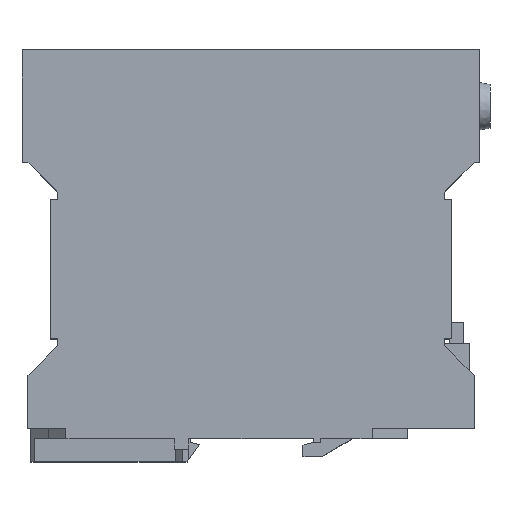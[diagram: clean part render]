
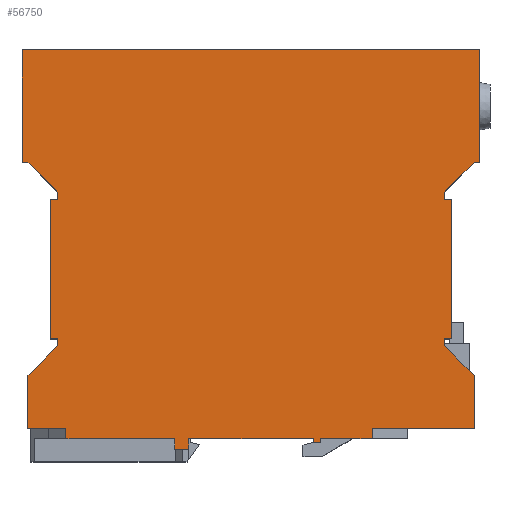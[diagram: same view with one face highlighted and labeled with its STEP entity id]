
A CAD part, top view. The second image highlights one B-rep face of the part: STEP entity #56750.
In plain terms, the highlighted planar face has unit normal (0, 0, 1) as drawn and (0, -1, 0) by its records, which use the part's own axes.
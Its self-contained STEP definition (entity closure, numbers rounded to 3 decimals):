
#3980=CARTESIAN_POINT('',(14.1,-26.,-110.));
#3990=VERTEX_POINT('',#3980);
#4020=CARTESIAN_POINT('',(-95.9,-26.,0.));
#4030=DIRECTION('',(0.707,0.,-0.707));
#4040=VECTOR('',#4030,1.);
#4050=LINE('',#4020,#4040);
#4060=CARTESIAN_POINT('',(22.5,-26.,-118.4));
#4070=VERTEX_POINT('',#4060);
#4080=EDGE_CURVE('',#3990,#4070,#4050,.T.);
#5450=CARTESIAN_POINT('',(22.5,-26.,10.1));
#5460=VERTEX_POINT('',#5450);
#5490=CARTESIAN_POINT('',(22.5,-26.,0.));
#5500=DIRECTION('',(0.,0.,1.));
#5510=VECTOR('',#5500,1.);
#5520=LINE('',#5490,#5510);
#5530=CARTESIAN_POINT('',(22.5,-26.,8.4));
#5540=VERTEX_POINT('',#5530);
#5550=EDGE_CURVE('',#5540,#5460,#5520,.T.);
#6370=CARTESIAN_POINT('',(12.1,-26.,0.));
#6380=VERTEX_POINT('',#6370);
#6410=CARTESIAN_POINT('',(12.1,-26.,0.));
#6420=DIRECTION('',(-0.,0.,1.));
#6430=VECTOR('',#6420,1.);
#6440=LINE('',#6410,#6430);
#6450=CARTESIAN_POINT('',(12.1,-26.,2.));
#6460=VERTEX_POINT('',#6450);
#6470=EDGE_CURVE('',#6380,#6460,#6440,.T.);
#7040=CARTESIAN_POINT('',(0.,-26.,-37.25));
#7050=DIRECTION('',(1.,0.,0.));
#7060=VECTOR('',#7050,1.);
#7070=LINE('',#7040,#7060);
#7080=CARTESIAN_POINT('',(-59.,-26.,-37.25));
#7090=VERTEX_POINT('',#7080);
#7100=CARTESIAN_POINT('',(-56.,-26.,-37.25));
#7110=VERTEX_POINT('',#7100);
#7120=EDGE_CURVE('',#7090,#7110,#7070,.T.);
#7510=CARTESIAN_POINT('',(12.1,-26.,0.));
#7520=DIRECTION('',(-0.,0.,1.));
#7530=VECTOR('',#7520,1.);
#7540=LINE('',#7510,#7530);
#7550=CARTESIAN_POINT('',(12.1,-26.,-112.));
#7560=VERTEX_POINT('',#7550);
#7570=CARTESIAN_POINT('',(12.1,-26.,-110.));
#7580=VERTEX_POINT('',#7570);
#7590=EDGE_CURVE('',#7560,#7580,#7540,.T.);
#8440=CARTESIAN_POINT('',(14.1,-26.,0.));
#8450=VERTEX_POINT('',#8440);
#8480=CARTESIAN_POINT('',(0.,-26.,0.));
#8490=DIRECTION('',(-1.,0.,0.));
#8500=VECTOR('',#8490,1.);
#8510=LINE('',#8480,#8500);
#8520=EDGE_CURVE('',#8450,#6380,#8510,.T.);
#8600=CARTESIAN_POINT('',(-27.6,-26.,0.));
#8610=VERTEX_POINT('',#8600);
#8640=CARTESIAN_POINT('',(-29.6,-26.,0.));
#8650=VERTEX_POINT('',#8640);
#8660=EDGE_CURVE('',#8610,#8650,#8510,.T.);
#11380=CARTESIAN_POINT('',(-53.,-26.,0.));
#11390=DIRECTION('',(-0.,0.,-1.));
#11400=VECTOR('',#11390,1.);
#11410=LINE('',#11380,#11400);
#11420=CARTESIAN_POINT('',(-53.,-26.,8.4));
#11430=VERTEX_POINT('',#11420);
#11440=CARTESIAN_POINT('',(-53.,-26.,-2.4));
#11450=VERTEX_POINT('',#11440);
#11460=EDGE_CURVE('',#11430,#11450,#11410,.T.);
#14010=CARTESIAN_POINT('',(-29.6,-26.,0.));
#14020=DIRECTION('',(-0.707,0.,0.707));
#14030=VECTOR('',#14020,1.);
#14040=LINE('',#14010,#14030);
#14050=CARTESIAN_POINT('',(-38.,-26.,8.4));
#14060=VERTEX_POINT('',#14050);
#14070=EDGE_CURVE('',#8650,#14060,#14040,.T.);
#15050=CARTESIAN_POINT('',(-27.6,-26.,0.));
#15060=DIRECTION('',(-0.,0.,-1.));
#15070=VECTOR('',#15060,1.);
#15080=LINE('',#15050,#15070);
#15090=CARTESIAN_POINT('',(-27.6,-26.,2.));
#15100=VERTEX_POINT('',#15090);
#15110=EDGE_CURVE('',#15100,#8610,#15080,.T.);
#20490=CARTESIAN_POINT('',(-57.2,-26.,0.));
#20500=DIRECTION('',(-0.,0.,-1.));
#20510=VECTOR('',#20500,1.);
#20520=LINE('',#20490,#20510);
#20530=CARTESIAN_POINT('',(-57.2,-26.,-72.75));
#20540=VERTEX_POINT('',#20530);
#20550=CARTESIAN_POINT('',(-57.2,-26.,-74.75));
#20560=VERTEX_POINT('',#20550);
#20570=EDGE_CURVE('',#20540,#20560,#20520,.T.);
#23100=CARTESIAN_POINT('',(-27.6,-26.,-112.));
#23110=VERTEX_POINT('',#23100);
#23140=CARTESIAN_POINT('',(0.,-26.,-112.));
#23150=DIRECTION('',(1.,0.,0.));
#23160=VECTOR('',#23150,1.);
#23170=LINE('',#23140,#23160);
#23180=EDGE_CURVE('',#23110,#7560,#23170,.T.);
#23500=CARTESIAN_POINT('',(0.,-26.,-2.4));
#23510=DIRECTION('',(-1.,0.,0.));
#23520=VECTOR('',#23510,1.);
#23530=LINE('',#23500,#23520);
#23540=CARTESIAN_POINT('',(-56.,-26.,-2.4));
#23550=VERTEX_POINT('',#23540);
#23560=EDGE_CURVE('',#11450,#23550,#23530,.T.);
#26050=CARTESIAN_POINT('',(14.1,-26.,0.));
#26060=DIRECTION('',(-0.707,0.,-0.707));
#26070=VECTOR('',#26060,1.);
#26080=LINE('',#26050,#26070);
#26090=EDGE_CURVE('',#5540,#8450,#26080,.T.);
#34290=CARTESIAN_POINT('',(0.,-26.,-33.25));
#34300=DIRECTION('',(-1.,0.,0.));
#34310=VECTOR('',#34300,1.);
#34320=LINE('',#34290,#34310);
#34330=CARTESIAN_POINT('',(-56.,-26.,-33.25));
#34340=VERTEX_POINT('',#34330);
#34350=CARTESIAN_POINT('',(-59.,-26.,-33.25));
#34360=VERTEX_POINT('',#34350);
#34370=EDGE_CURVE('',#34340,#34360,#34320,.T.);
#37040=CARTESIAN_POINT('',(-29.6,-26.,-110.));
#37050=VERTEX_POINT('',#37040);
#37080=CARTESIAN_POINT('',(0.,-26.,-110.));
#37090=DIRECTION('',(1.,0.,0.));
#37100=VECTOR('',#37090,1.);
#37110=LINE('',#37080,#37100);
#37120=CARTESIAN_POINT('',(-27.6,-26.,-110.));
#37130=VERTEX_POINT('',#37120);
#37140=EDGE_CURVE('',#37050,#37130,#37110,.T.);
#37240=EDGE_CURVE('',#7580,#3990,#37110,.T.);
#38130=CARTESIAN_POINT('',(-27.6,-26.,0.));
#38140=DIRECTION('',(-0.,0.,-1.));
#38150=VECTOR('',#38140,1.);
#38160=LINE('',#38130,#38150);
#38170=EDGE_CURVE('',#37130,#23110,#38160,.T.);
#39000=CARTESIAN_POINT('',(54.5,-26.,-119.9));
#39010=VERTEX_POINT('',#39000);
#39040=CARTESIAN_POINT('',(54.5,-26.,0.));
#39050=DIRECTION('',(-0.,0.,1.));
#39060=VECTOR('',#39050,1.);
#39070=LINE('',#39040,#39060);
#39080=CARTESIAN_POINT('',(54.5,-26.,10.1));
#39090=VERTEX_POINT('',#39080);
#39100=EDGE_CURVE('',#39010,#39090,#39070,.T.);
#39380=CARTESIAN_POINT('',(0.,-26.,-118.4));
#39390=DIRECTION('',(1.,0.,0.));
#39400=VECTOR('',#39390,1.);
#39410=LINE('',#39380,#39400);
#39420=CARTESIAN_POINT('',(-53.,-26.,-118.4));
#39430=VERTEX_POINT('',#39420);
#39440=CARTESIAN_POINT('',(-38.,-26.,-118.4));
#39450=VERTEX_POINT('',#39440);
#39460=EDGE_CURVE('',#39430,#39450,#39410,.T.);
#41920=CARTESIAN_POINT('',(0.,-26.,-74.75));
#41930=DIRECTION('',(1.,0.,0.));
#41940=VECTOR('',#41930,1.);
#41950=LINE('',#41920,#41940);
#41960=CARTESIAN_POINT('',(-56.,-26.,-74.75));
#41970=VERTEX_POINT('',#41960);
#41980=EDGE_CURVE('',#20560,#41970,#41950,.T.);
#42340=CARTESIAN_POINT('',(22.5,-26.,-119.9));
#42350=VERTEX_POINT('',#42340);
#42380=CARTESIAN_POINT('',(0.,-26.,-119.9));
#42390=DIRECTION('',(-1.,0.,-0.));
#42400=VECTOR('',#42390,1.);
#42410=LINE('',#42380,#42400);
#42420=EDGE_CURVE('',#39010,#42350,#42410,.T.);
#45420=CARTESIAN_POINT('',(-56.,-26.,-72.75));
#45430=VERTEX_POINT('',#45420);
#45460=CARTESIAN_POINT('',(0.,-26.,-72.75));
#45470=DIRECTION('',(-1.,0.,0.));
#45480=VECTOR('',#45470,1.);
#45490=LINE('',#45460,#45480);
#45500=EDGE_CURVE('',#45430,#20540,#45490,.T.);
#46510=CARTESIAN_POINT('',(22.5,-26.,0.));
#46520=DIRECTION('',(0.,0.,1.));
#46530=VECTOR('',#46520,1.);
#46540=LINE('',#46510,#46530);
#46550=EDGE_CURVE('',#42350,#4070,#46540,.T.);
#48460=CARTESIAN_POINT('',(80.4,-26.,0.));
#48470=DIRECTION('',(0.707,0.,0.707));
#48480=VECTOR('',#48470,1.);
#48490=LINE('',#48460,#48480);
#48500=EDGE_CURVE('',#39450,#37050,#48490,.T.);
#49830=CARTESIAN_POINT('',(-53.,-26.,-89.4));
#49840=VERTEX_POINT('',#49830);
#49870=CARTESIAN_POINT('',(-53.,-26.,0.));
#49880=DIRECTION('',(-0.,0.,-1.));
#49890=VECTOR('',#49880,1.);
#49900=LINE('',#49870,#49890);
#49910=EDGE_CURVE('',#49840,#39430,#49900,.T.);
#53750=CARTESIAN_POINT('',(-59.,-26.,0.));
#53760=DIRECTION('',(-0.,0.,-1.));
#53770=VECTOR('',#53760,1.);
#53780=LINE('',#53750,#53770);
#53790=EDGE_CURVE('',#34360,#7090,#53780,.T.);
#54670=CARTESIAN_POINT('',(0.,-26.,8.4));
#54680=DIRECTION('',(-1.,0.,0.));
#54690=VECTOR('',#54680,1.);
#54700=LINE('',#54670,#54690);
#54710=EDGE_CURVE('',#14060,#11430,#54700,.T.);
#54870=CARTESIAN_POINT('',(0.,-26.,10.1));
#54880=DIRECTION('',(1.,0.,-0.));
#54890=VECTOR('',#54880,1.);
#54900=LINE('',#54870,#54890);
#54910=EDGE_CURVE('',#5460,#39090,#54900,.T.);
#56070=CARTESIAN_POINT('',(-0.75,-26.,-54.9));
#56080=DIRECTION('',(0.,-1.,0.));
#56090=DIRECTION('',(0.,0.,-1.));
#56100=AXIS2_PLACEMENT_3D('',#56070,#56080,#56090);
#56110=PLANE('',#56100);
#56120=ORIENTED_EDGE('',*,*,#8520,.T.);
#56130=ORIENTED_EDGE('',*,*,#26090,.T.);
#56140=ORIENTED_EDGE('',*,*,#5550,.F.);
#56150=ORIENTED_EDGE('',*,*,#54910,.F.);
#56160=ORIENTED_EDGE('',*,*,#39100,.T.);
#56170=ORIENTED_EDGE('',*,*,#42420,.F.);
#56180=ORIENTED_EDGE('',*,*,#46550,.F.);
#56190=ORIENTED_EDGE('',*,*,#4080,.T.);
#56200=ORIENTED_EDGE('',*,*,#37240,.T.);
#56210=ORIENTED_EDGE('',*,*,#7590,.T.);
#56220=ORIENTED_EDGE('',*,*,#23180,.T.);
#56230=ORIENTED_EDGE('',*,*,#38170,.T.);
#56240=ORIENTED_EDGE('',*,*,#37140,.T.);
#56250=ORIENTED_EDGE('',*,*,#48500,.T.);
#56260=ORIENTED_EDGE('',*,*,#39460,.T.);
#56270=ORIENTED_EDGE('',*,*,#49910,.T.);
#56280=CARTESIAN_POINT('',(0.,-26.,-89.4));
#56290=DIRECTION('',(1.,0.,0.));
#56300=VECTOR('',#56290,1.);
#56310=LINE('',#56280,#56300);
#56320=CARTESIAN_POINT('',(-56.,-26.,-89.4));
#56330=VERTEX_POINT('',#56320);
#56340=EDGE_CURVE('',#56330,#49840,#56310,.T.);
#56350=ORIENTED_EDGE('',*,*,#56340,.T.);
#56360=CARTESIAN_POINT('',(-56.,-26.,0.));
#56370=DIRECTION('',(-0.,0.,-1.));
#56380=VECTOR('',#56370,1.);
#56390=LINE('',#56360,#56380);
#56400=EDGE_CURVE('',#41970,#56330,#56390,.T.);
#56410=ORIENTED_EDGE('',*,*,#56400,.T.);
#56420=ORIENTED_EDGE('',*,*,#41980,.T.);
#56430=ORIENTED_EDGE('',*,*,#20570,.T.);
#56440=ORIENTED_EDGE('',*,*,#45500,.T.);
#56450=CARTESIAN_POINT('',(-56.,-26.,0.));
#56460=DIRECTION('',(-0.,0.,-1.));
#56470=VECTOR('',#56460,1.);
#56480=LINE('',#56450,#56470);
#56490=EDGE_CURVE('',#7110,#45430,#56480,.T.);
#56500=ORIENTED_EDGE('',*,*,#56490,.T.);
#56510=ORIENTED_EDGE('',*,*,#7120,.T.);
#56520=ORIENTED_EDGE('',*,*,#53790,.T.);
#56530=ORIENTED_EDGE('',*,*,#34370,.T.);
#56540=CARTESIAN_POINT('',(-56.,-26.,0.));
#56550=DIRECTION('',(-0.,0.,-1.));
#56560=VECTOR('',#56550,1.);
#56570=LINE('',#56540,#56560);
#56580=EDGE_CURVE('',#23550,#34340,#56570,.T.);
#56590=ORIENTED_EDGE('',*,*,#56580,.T.);
#56600=ORIENTED_EDGE('',*,*,#23560,.T.);
#56610=ORIENTED_EDGE('',*,*,#11460,.T.);
#56620=ORIENTED_EDGE('',*,*,#54710,.T.);
#56630=ORIENTED_EDGE('',*,*,#14070,.T.);
#56640=ORIENTED_EDGE('',*,*,#8660,.T.);
#56650=ORIENTED_EDGE('',*,*,#15110,.T.);
#56660=CARTESIAN_POINT('',(0.,-26.,2.));
#56670=DIRECTION('',(-1.,0.,0.));
#56680=VECTOR('',#56670,1.);
#56690=LINE('',#56660,#56680);
#56700=EDGE_CURVE('',#6460,#15100,#56690,.T.);
#56710=ORIENTED_EDGE('',*,*,#56700,.T.);
#56720=ORIENTED_EDGE('',*,*,#6470,.T.);
#56730=EDGE_LOOP('',(#56720,#56710,#56650,#56640,#56630,#56620,#56610,
#56600,#56590,#56530,#56520,#56510,#56500,#56440,#56430,#56420,#56410,
#56350,#56270,#56260,#56250,#56240,#56230,#56220,#56210,#56200,#56190,
#56180,#56170,#56160,#56150,#56140,#56130,#56120));
#56740=FACE_OUTER_BOUND('',#56730,.T.);
#56750=ADVANCED_FACE('',(#56740),#56110,.T.);
